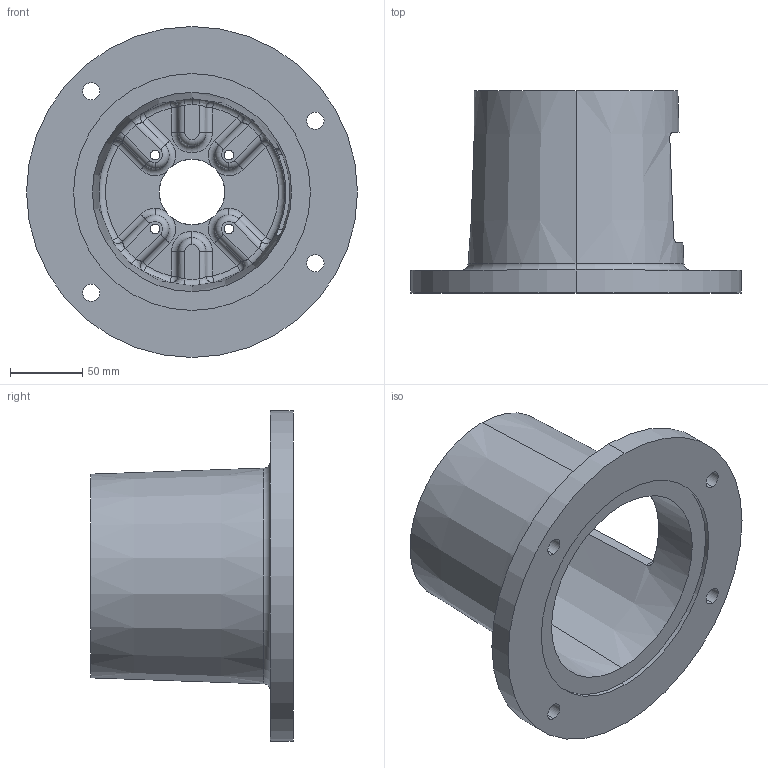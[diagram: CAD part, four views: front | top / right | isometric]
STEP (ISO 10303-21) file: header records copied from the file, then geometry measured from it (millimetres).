
FILE_DESCRIPTION (( 'STEP AP203' ), '1' );
FILE_NAME ('E644554F.STEP', '2014-11-03T17:51:57', ( '' ), ( '' ), 'SwSTEP 2.0', 'SolidWorks 2014', '' );
FILE_SCHEMA (( 'CONFIG_CONTROL_DESIGN' ));
Length unit declared in the file: inch
Products named in the file (1): E644554F
Bounding box: 228.6 x 139.7 x 228.6 mm (x, y, z)
Volume: 824565 mm3; surface area: 195786.8 mm2
Topology: 1 solids, 1 shells, 162 faces, 395 edges, 225 vertices
Faces by surface type: cylinder 59, torus 33, plane 30, bspline 24, sphere 12, cone 4
Entity records: 6342 total; most frequent: CARTESIAN_POINT 2557, DIRECTION 819, ORIENTED_EDGE 766, EDGE_CURVE 383, AXIS2_PLACEMENT_3D 361, VERTEX_POINT 225, CIRCLE 222, EDGE_LOOP 184
